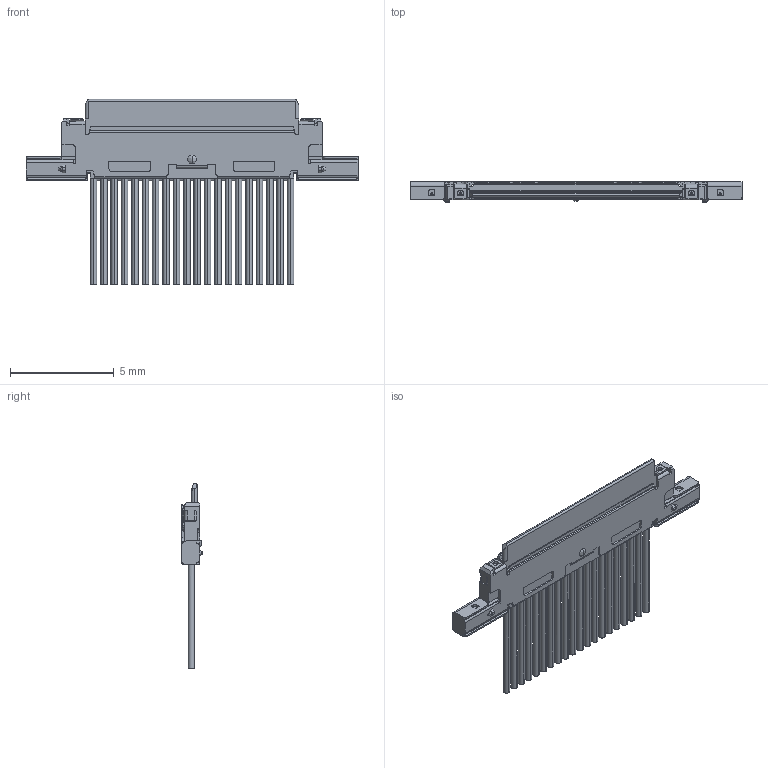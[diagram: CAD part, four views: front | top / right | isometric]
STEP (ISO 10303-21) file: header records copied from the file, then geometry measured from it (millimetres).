
FILE_DESCRIPTION (( 'STEP AP203' ), '1' );
FILE_NAME ('20453-x20T-x2C_PLUG_CABLE_ASS''Y_STEP_R8R1R0_ALL.STEP', '2020-12-16T04:00:10', ( '' ), ( '' ), 'SwSTEP 2.0', 'SolidWorks 2017', '' );
FILE_SCHEMA (( 'CONFIG_CONTROL_DESIGN' ));
Length unit declared in the file: millimetre
Products named in the file (1): 20453-x20T-x2C_PLUG_CABLE_ASS''Y_STEP_R8R1R0_ALL
Bounding box: 16 x 1 x 8.92 mm (x, y, z)
Volume: 41.2 mm3; surface area: 256.6 mm2
Topology: 1 solids, 1 shells, 1156 faces, 3192 edges, 2063 vertices
Faces by surface type: plane 794, cylinder 298, cone 42, bspline 22
Entity records: 37559 total; most frequent: CARTESIAN_POINT 9059, ORIENTED_EDGE 6360, DIRECTION 5259, EDGE_CURVE 3180, VECTOR 2213, LINE 2213, VERTEX_POINT 2063, AXIS2_PLACEMENT_3D 1523
